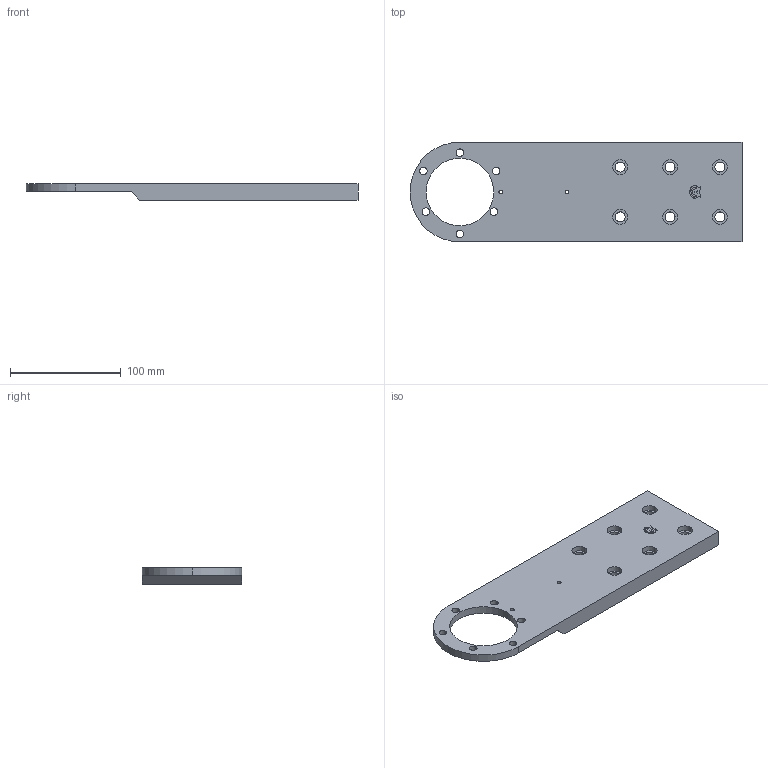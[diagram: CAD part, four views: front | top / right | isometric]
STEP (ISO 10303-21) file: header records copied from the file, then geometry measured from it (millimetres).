
FILE_DESCRIPTION (( 'STEP AP203' ), '1' );
FILE_NAME ('084.808.008.STEP', '2015-05-22T15:12:41', ( '' ), ( '' ), 'SwSTEP 2.0', 'SolidWorks 2012', '' );
FILE_SCHEMA (( 'CONFIG_CONTROL_DESIGN' ));
Length unit declared in the file: millimetre
Products named in the file (1): 084.808.008
Bounding box: 300 x 90 x 15 mm (x, y, z)
Volume: 294360.9 mm3; surface area: 61004.6 mm2
Topology: 1 solids, 1 shells, 111 faces, 288 edges, 192 vertices
Faces by surface type: cylinder 56, plane 31, bspline 24
Entity records: 3715 total; most frequent: CARTESIAN_POINT 904, ORIENTED_EDGE 576, DIRECTION 528, EDGE_CURVE 288, AXIS2_PLACEMENT_3D 200, VERTEX_POINT 192, EDGE_LOOP 154, LINE 128
